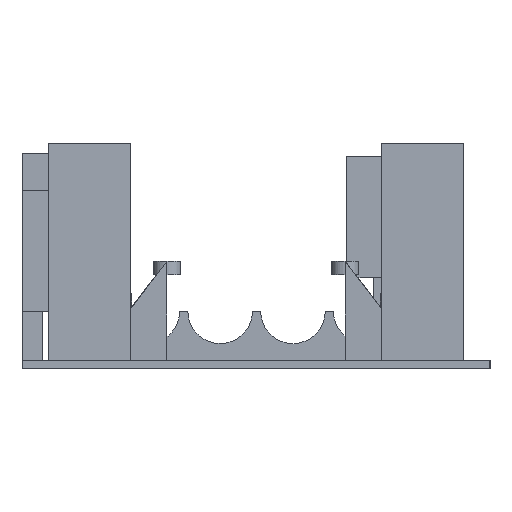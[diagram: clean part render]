
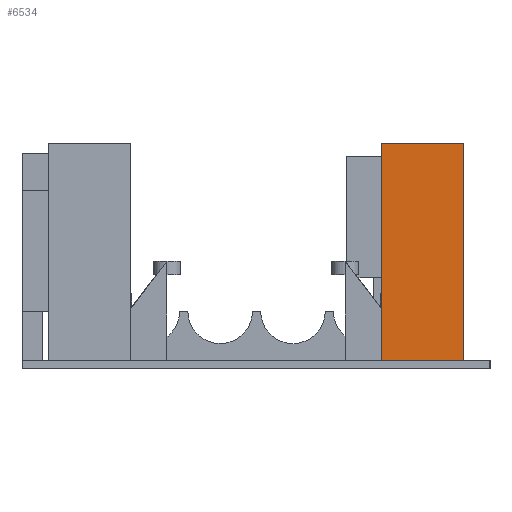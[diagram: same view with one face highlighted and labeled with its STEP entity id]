
A CAD part, left-side view. The second image highlights one B-rep face of the part: STEP entity #6534.
In plain terms, the highlighted planar face has unit normal (-1, 0, 0).
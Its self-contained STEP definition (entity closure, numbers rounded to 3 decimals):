
#126 = PLANE('',#127);
#127 = AXIS2_PLACEMENT_3D('',#128,#129,#130);
#128 = CARTESIAN_POINT('',(0.4,0.4,2.4));
#129 = DIRECTION('',(0.,0.,1.));
#130 = DIRECTION('',(1.,0.,-0.));
#854 = VERTEX_POINT('',#855);
#855 = CARTESIAN_POINT('',(8.8,8.3,2.4));
#868 = PLANE('',#869);
#869 = AXIS2_PLACEMENT_3D('',#870,#871,#872);
#870 = CARTESIAN_POINT('',(8.8,8.3,0.));
#871 = DIRECTION('',(-0.,1.,0.));
#872 = DIRECTION('',(0.,0.,1.));
#879 = EDGE_CURVE('',#854,#880,#882,.T.);
#880 = VERTEX_POINT('',#881);
#881 = CARTESIAN_POINT('',(8.8,32.7,2.4));
#882 = SURFACE_CURVE('',#883,(#887,#893),.PCURVE_S1.);
#883 = LINE('',#884,#885);
#884 = CARTESIAN_POINT('',(8.8,4.35,2.4));
#885 = VECTOR('',#886,1.);
#886 = DIRECTION('',(-0.,1.,0.));
#887 = PCURVE('',#126,#888);
#888 = DEFINITIONAL_REPRESENTATION('',(#889),#892);
#889 = B_SPLINE_CURVE_WITH_KNOTS('',1,(#890,#891),.UNSPECIFIED.,.F.,.F.,
  (2,2),(3.95,28.35),.PIECEWISE_BEZIER_KNOTS.);
#890 = CARTESIAN_POINT('',(8.4,7.9));
#891 = CARTESIAN_POINT('',(8.4,32.3));
#892 = ( GEOMETRIC_REPRESENTATION_CONTEXT(2) 
PARAMETRIC_REPRESENTATION_CONTEXT() REPRESENTATION_CONTEXT('2D SPACE',''
  ) );
#893 = PCURVE('',#894,#899);
#894 = PLANE('',#895);
#895 = AXIS2_PLACEMENT_3D('',#896,#897,#898);
#896 = CARTESIAN_POINT('',(8.8,8.3,0.));
#897 = DIRECTION('',(1.,0.,-0.));
#898 = DIRECTION('',(0.,0.,1.));
#899 = DEFINITIONAL_REPRESENTATION('',(#900),#903);
#900 = B_SPLINE_CURVE_WITH_KNOTS('',1,(#901,#902),.UNSPECIFIED.,.F.,.F.,
  (2,2),(3.95,28.35),.PIECEWISE_BEZIER_KNOTS.);
#901 = CARTESIAN_POINT('',(2.4,0.));
#902 = CARTESIAN_POINT('',(2.4,-24.4));
#903 = ( GEOMETRIC_REPRESENTATION_CONTEXT(2) 
PARAMETRIC_REPRESENTATION_CONTEXT() REPRESENTATION_CONTEXT('2D SPACE',''
  ) );
#920 = PLANE('',#921);
#921 = AXIS2_PLACEMENT_3D('',#922,#923,#924);
#922 = CARTESIAN_POINT('',(8.8,32.7,0.));
#923 = DIRECTION('',(-0.,1.,0.));
#924 = DIRECTION('',(0.,0.,1.));
#6174 = PLANE('',#6175);
#6175 = AXIS2_PLACEMENT_3D('',#6176,#6177,#6178);
#6176 = CARTESIAN_POINT('',(8.8,8.3,67.));
#6177 = DIRECTION('',(0.,0.,1.));
#6178 = DIRECTION('',(1.,0.,-0.));
#6380 = EDGE_CURVE('',#854,#6381,#6383,.T.);
#6381 = VERTEX_POINT('',#6382);
#6382 = CARTESIAN_POINT('',(8.8,8.3,67.));
#6383 = SURFACE_CURVE('',#6384,(#6388,#6395),.PCURVE_S1.);
#6384 = LINE('',#6385,#6386);
#6385 = CARTESIAN_POINT('',(8.8,8.3,0.));
#6386 = VECTOR('',#6387,1.);
#6387 = DIRECTION('',(0.,0.,1.));
#6388 = PCURVE('',#868,#6389);
#6389 = DEFINITIONAL_REPRESENTATION('',(#6390),#6394);
#6390 = LINE('',#6391,#6392);
#6391 = CARTESIAN_POINT('',(0.,0.));
#6392 = VECTOR('',#6393,1.);
#6393 = DIRECTION('',(1.,0.));
#6394 = ( GEOMETRIC_REPRESENTATION_CONTEXT(2) 
PARAMETRIC_REPRESENTATION_CONTEXT() REPRESENTATION_CONTEXT('2D SPACE',''
  ) );
#6395 = PCURVE('',#894,#6396);
#6396 = DEFINITIONAL_REPRESENTATION('',(#6397),#6401);
#6397 = LINE('',#6398,#6399);
#6398 = CARTESIAN_POINT('',(0.,0.));
#6399 = VECTOR('',#6400,1.);
#6400 = DIRECTION('',(1.,0.));
#6401 = ( GEOMETRIC_REPRESENTATION_CONTEXT(2) 
PARAMETRIC_REPRESENTATION_CONTEXT() REPRESENTATION_CONTEXT('2D SPACE',''
  ) );
#6534 = ADVANCED_FACE('',(#6535),#894,.F.);
#6535 = FACE_BOUND('',#6536,.F.);
#6536 = EDGE_LOOP('',(#6537,#6538,#6539,#6562));
#6537 = ORIENTED_EDGE('',*,*,#6380,.F.);
#6538 = ORIENTED_EDGE('',*,*,#879,.T.);
#6539 = ORIENTED_EDGE('',*,*,#6540,.T.);
#6540 = EDGE_CURVE('',#880,#6541,#6543,.T.);
#6541 = VERTEX_POINT('',#6542);
#6542 = CARTESIAN_POINT('',(8.8,32.7,67.));
#6543 = SURFACE_CURVE('',#6544,(#6548,#6555),.PCURVE_S1.);
#6544 = LINE('',#6545,#6546);
#6545 = CARTESIAN_POINT('',(8.8,32.7,0.));
#6546 = VECTOR('',#6547,1.);
#6547 = DIRECTION('',(0.,0.,1.));
#6548 = PCURVE('',#894,#6549);
#6549 = DEFINITIONAL_REPRESENTATION('',(#6550),#6554);
#6550 = LINE('',#6551,#6552);
#6551 = CARTESIAN_POINT('',(0.,-24.4));
#6552 = VECTOR('',#6553,1.);
#6553 = DIRECTION('',(1.,0.));
#6554 = ( GEOMETRIC_REPRESENTATION_CONTEXT(2) 
PARAMETRIC_REPRESENTATION_CONTEXT() REPRESENTATION_CONTEXT('2D SPACE',''
  ) );
#6555 = PCURVE('',#920,#6556);
#6556 = DEFINITIONAL_REPRESENTATION('',(#6557),#6561);
#6557 = LINE('',#6558,#6559);
#6558 = CARTESIAN_POINT('',(0.,0.));
#6559 = VECTOR('',#6560,1.);
#6560 = DIRECTION('',(1.,0.));
#6561 = ( GEOMETRIC_REPRESENTATION_CONTEXT(2) 
PARAMETRIC_REPRESENTATION_CONTEXT() REPRESENTATION_CONTEXT('2D SPACE',''
  ) );
#6562 = ORIENTED_EDGE('',*,*,#6563,.F.);
#6563 = EDGE_CURVE('',#6381,#6541,#6564,.T.);
#6564 = SURFACE_CURVE('',#6565,(#6569,#6576),.PCURVE_S1.);
#6565 = LINE('',#6566,#6567);
#6566 = CARTESIAN_POINT('',(8.8,8.3,67.));
#6567 = VECTOR('',#6568,1.);
#6568 = DIRECTION('',(-0.,1.,0.));
#6569 = PCURVE('',#894,#6570);
#6570 = DEFINITIONAL_REPRESENTATION('',(#6571),#6575);
#6571 = LINE('',#6572,#6573);
#6572 = CARTESIAN_POINT('',(67.,0.));
#6573 = VECTOR('',#6574,1.);
#6574 = DIRECTION('',(0.,-1.));
#6575 = ( GEOMETRIC_REPRESENTATION_CONTEXT(2) 
PARAMETRIC_REPRESENTATION_CONTEXT() REPRESENTATION_CONTEXT('2D SPACE',''
  ) );
#6576 = PCURVE('',#6174,#6577);
#6577 = DEFINITIONAL_REPRESENTATION('',(#6578),#6582);
#6578 = LINE('',#6579,#6580);
#6579 = CARTESIAN_POINT('',(0.,0.));
#6580 = VECTOR('',#6581,1.);
#6581 = DIRECTION('',(0.,1.));
#6582 = ( GEOMETRIC_REPRESENTATION_CONTEXT(2) 
PARAMETRIC_REPRESENTATION_CONTEXT() REPRESENTATION_CONTEXT('2D SPACE',''
  ) );
